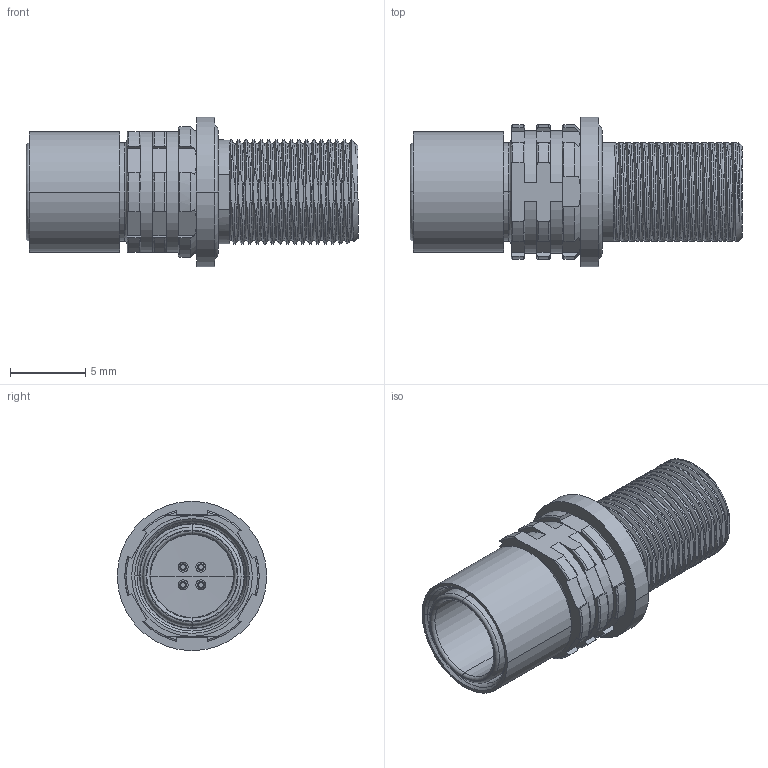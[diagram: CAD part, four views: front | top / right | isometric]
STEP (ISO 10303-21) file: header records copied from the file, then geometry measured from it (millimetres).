
FILE_DESCRIPTION((''),'2;1');
FILE_NAME('00160234--_ASM','2020-10-29T08:01:17',('EUnterhaslberger'),(''),'CREO PARAMETRIC BY PTC INC, 2018300','CREO PARAMETRIC BY PTC INC, 2018300','');
FILE_SCHEMA(('AP242_MANAGED_MODEL_BASED_3D_ENGINEERING_MIM_LF { 1 0 10303 442 1 1 4 }'));
Length unit declared in the file: millimetre
Products named in the file (5): TEMP_SW_STEP_MONOBLOCK_1_1; TEMP_SW_STEP_MONOBLOCK_1_2; TEMP_SW_STEP_MONOBLOCK_1_3; TEMP_SW_STEP_MONOBLOCK_1_ASM; 00160234--_ASM
Assembly tree (4 placements, depth 3):
  00160234--_ASM
    TEMP_SW_STEP_MONOBLOCK_1_ASM
      TEMP_SW_STEP_MONOBLOCK_1_1
      TEMP_SW_STEP_MONOBLOCK_1_2
      TEMP_SW_STEP_MONOBLOCK_1_3
Bounding box: 22 x 9.9 x 9.9 mm (x, y, z)
Volume: 607.5 mm3; surface area: 1660.4 mm2
Topology: 3 solids, 3 shells, 503 faces, 1374 edges, 897 vertices
Faces by surface type: plane 181, cylinder 156, torus 65, cone 65, bspline 29, sphere 7
Entity records: 35040 total; most frequent: CARTESIAN_POINT 20457, ORIENTED_EDGE 2744, DIRECTION 2386, EDGE_CURVE 1372, AXIS2_PLACEMENT_3D 933, VERTEX_POINT 897, EDGE_LOOP 533, VECTOR 520
